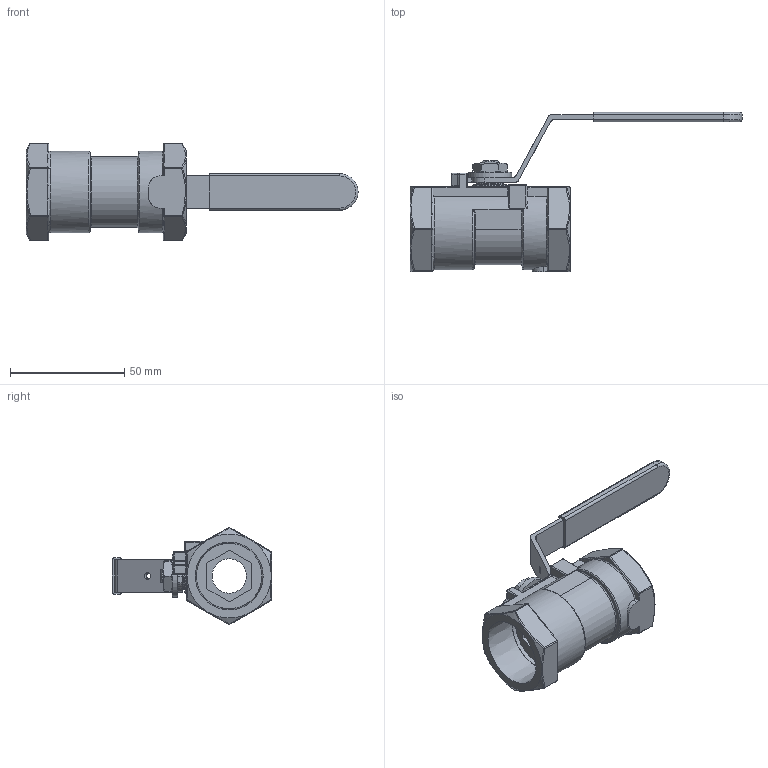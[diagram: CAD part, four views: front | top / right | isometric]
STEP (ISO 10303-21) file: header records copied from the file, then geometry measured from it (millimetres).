
FILE_DESCRIPTION((''),'2;1');
FILE_NAME('F:\Drawings\OneDrive - Avco Valve\Derek\100 Series\Machine Drawings\3D Insertables\100 Series\100-SE-100-LH.stp','2022-10-07T09:21:30',('dKouns'),(''),'Autodesk Inventor 2012','Autodesk Inventor 2012','');
FILE_SCHEMA(('AUTOMOTIVE_DESIGN { 1 0 10303 214 1 1 1 1 }'));
Length unit declared in the file: millimetre
Products named in the file (6): 100-SE-100-LH; 100-SE-100; 100-100-HANDLE; 100-100-SLEEVE; Plain Washer (Metric) 8 N; Hex Jam Nut - Metric M8 x 1.25
Assembly tree (5 placements, depth 2):
  100-SE-100-LH
    100-SE-100
    100-100-HANDLE
    100-100-SLEEVE
    Plain Washer (Metric) 8 N
    Hex Jam Nut - Metric M8 x 1.25
Bounding box: 145 x 69.5 x 42.57 mm (x, y, z)
Volume: 50401.5 mm3; surface area: 26257.7 mm2
Topology: 5 solids, 5 shells, 598 faces, 1488 edges, 932 vertices
Faces by surface type: plane 226, bspline 163, cylinder 125, sphere 32, cone 30, torus 22
Full cylindrical faces by diameter (mm): 3 x1, 6.647 x1, 8.9 x1, 12 x1, 15 x2, 18.8 x1, 28.575 x2
Entity records: 19695 total; most frequent: CARTESIAN_POINT 6443, ORIENTED_EDGE 2920, DIRECTION 2276, EDGE_CURVE 1460, VERTEX_POINT 923, AXIS2_PLACEMENT_3D 772, VECTOR 732, LINE 732
